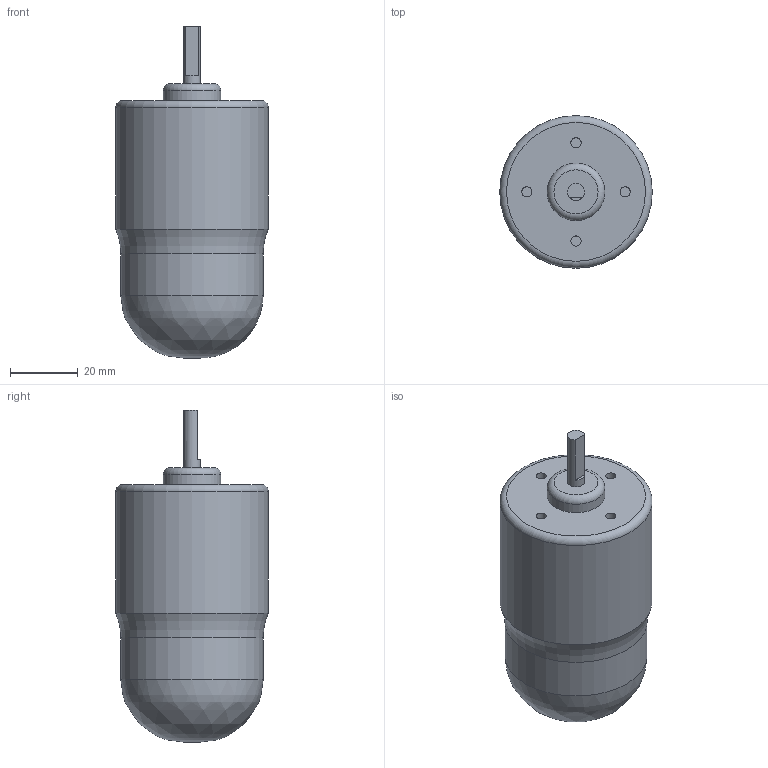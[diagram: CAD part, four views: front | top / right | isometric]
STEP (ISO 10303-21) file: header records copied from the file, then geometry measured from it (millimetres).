
FILE_DESCRIPTION(('STEP AP242'), '1');
FILE_NAME('Äâèæîê 12Â', '', ('UNSPECIFIED'), ('UNSPECIFIED'), 'C3D Converter', 'C3D Toolkit', '');
FILE_SCHEMA(('AP242_MANAGED_MODEL_BASED_3D_ENGINEERING_MIM_LF { 1 0 10303 442 1 1 4 }'));
Length unit declared in the file: millimetre
Bounding box: 45 x 45 x 98 mm (x, y, z)
Volume: 106825.3 mm3; surface area: 12869.1 mm2
Topology: 1 solids, 1 shells, 22 faces, 41 edges, 27 vertices
Faces by surface type: plane 10, cylinder 8, torus 3, bspline 1
Full cylindrical faces by diameter (mm): 3 x4, 5 x1, 17 x1, 42 x1, 45 x1
Entity records: 662 total; most frequent: CARTESIAN_POINT 206, DIRECTION 96, ORIENTED_EDGE 58, AXIS2_PLACEMENT_3D 46, EDGE_LOOP 40, EDGE_CURVE 29, VERTEX_POINT 27, FACE_BOUND 25
